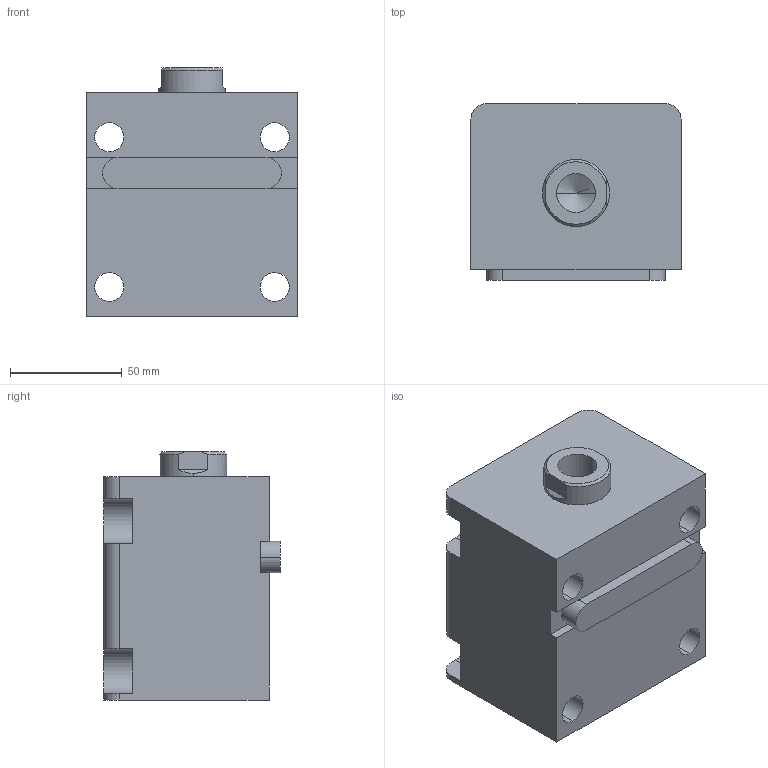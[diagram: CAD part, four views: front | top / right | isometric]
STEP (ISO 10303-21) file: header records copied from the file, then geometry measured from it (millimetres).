
FILE_DESCRIPTION (( 'STEP AP203' ), '1' );
FILE_NAME ('HTB-LA50-40N.STEP', '2019-10-09T07:09:05', ( '微软用户' ), ( '微软中国' ), 'SwSTEP 2.0', 'SolidWorks 2012', '' );
FILE_SCHEMA (( 'CONFIG_CONTROL_DESIGN' ));
Length unit declared in the file: millimetre
Products named in the file (4): HTB-LA50-40掛极; HTB-LA50-40N活塞杆; HTB-LA50-瑩; HTB-LA50-40N
Assembly tree (3 placements, depth 2):
  HTB-LA50-40N
    HTB-LA50-40掛极
    HTB-LA50-40N活塞杆
    HTB-LA50-瑩
Bounding box: 94 x 79 x 111 mm (x, y, z)
Volume: 596023.2 mm3; surface area: 93551.2 mm2
Topology: 3 solids, 3 shells, 86 faces, 213 edges, 139 vertices
Faces by surface type: plane 39, cylinder 35, cone 8, torus 4
Entity records: 3001 total; most frequent: DIRECTION 475, CARTESIAN_POINT 470, ORIENTED_EDGE 422, EDGE_CURVE 211, AXIS2_PLACEMENT_3D 180, VERTEX_POINT 139, VECTOR 115, LINE 115
